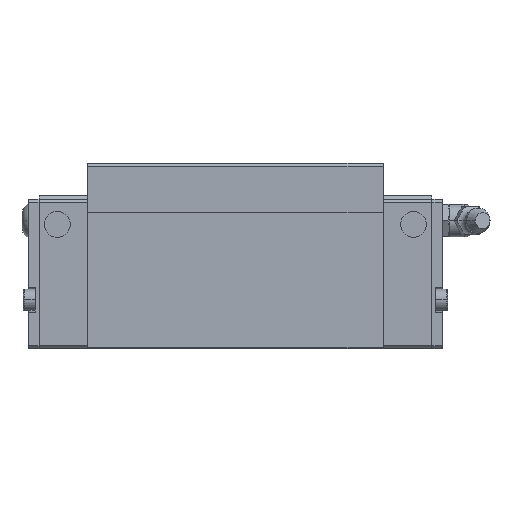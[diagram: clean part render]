
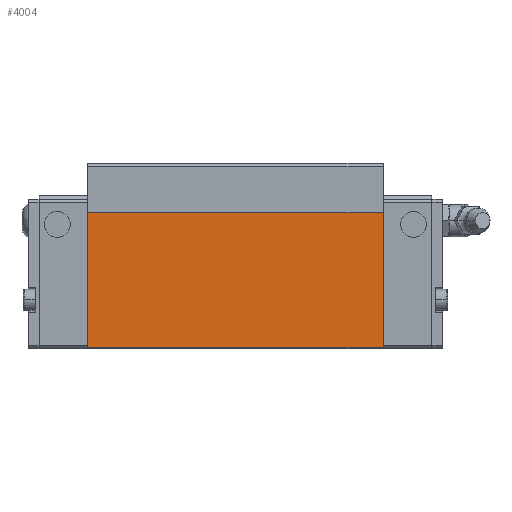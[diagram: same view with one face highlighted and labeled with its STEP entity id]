
A CAD part, left-side view. The second image highlights one B-rep face of the part: STEP entity #4004.
In plain terms, the highlighted planar face has unit normal (-1, 0, 0).
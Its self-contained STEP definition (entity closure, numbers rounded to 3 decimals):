
#1836=VERTEX_POINT('',#4919);
#1898=VERTEX_POINT('',#4985);
#2380=EDGE_CURVE('',#1836,#3602,#5524,.T.);
#2642=EDGE_CURVE('',#3204,#1836,#5812,.T.);
#3204=VERTEX_POINT('',#6431);
#3336=EDGE_CURVE('',#1898,#3204,#6573,.T.);
#3402=EDGE_CURVE('',#1898,#3602,#6648,.T.);
#3602=VERTEX_POINT('',#6877);
#4004=ADVANCED_FACE('',(#7304),#7305,.T.);
#4919=CARTESIAN_POINT('',(-42.2,116.6,9.4));
#4985=CARTESIAN_POINT('',(-42.2,19.6,54.0));
#5524=LINE('',#9265,#9266);
#5812=LINE('',#9705,#9706);
#6431=CARTESIAN_POINT('',(-42.2,19.6,9.4));
#6573=LINE('',#10892,#10893);
#6648=LINE('',#11009,#11010);
#6877=CARTESIAN_POINT('',(-42.2,116.6,54.0));
#7304=FACE_OUTER_BOUND('',#12060,.T.);
#7305=PLANE('',#12061);
#9265=CARTESIAN_POINT('',(-42.2,116.6,29.3));
#9266=VECTOR('',#14108,1.0);
#9705=CARTESIAN_POINT('',(-42.2,92.35,9.4));
#9706=VECTOR('',#14444,1.0);
#10892=CARTESIAN_POINT('',(-42.2,19.6,29.3));
#10893=VECTOR('',#15311,1.0);
#11009=CARTESIAN_POINT('',(-42.2,68.1,54.0));
#11010=VECTOR('',#15401,1.0);
#12060=EDGE_LOOP('',(#16064,#16065,#16066,#16067));
#12061=AXIS2_PLACEMENT_3D('',#16068,#16069,#16070);
#14108=DIRECTION('',(0.0,0.0,1.0));
#14444=DIRECTION('',(0.0,1.0,-0.0));
#15311=DIRECTION('',(-0.0,-0.0,-1.0));
#15401=DIRECTION('',(0.0,1.0,0.0));
#16064=ORIENTED_EDGE('',*,*,#2380,.F.);
#16065=ORIENTED_EDGE('',*,*,#2642,.F.);
#16066=ORIENTED_EDGE('',*,*,#3336,.F.);
#16067=ORIENTED_EDGE('',*,*,#3402,.T.);
#16068=CARTESIAN_POINT('',(-42.2,68.1,19.0));
#16069=DIRECTION('',(-1.0,0.0,0.0));
#16070=DIRECTION('',(0.0,0.0,1.0));
